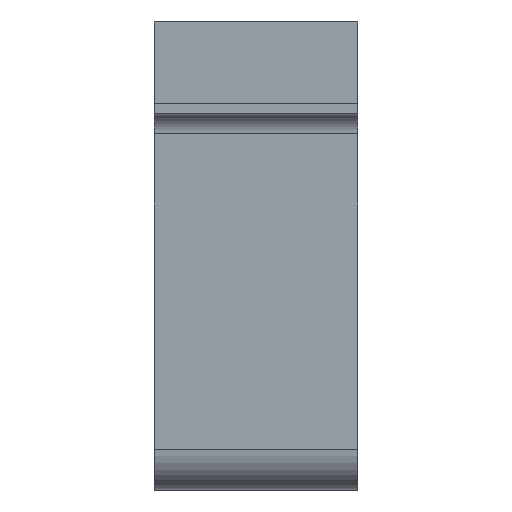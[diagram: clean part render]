
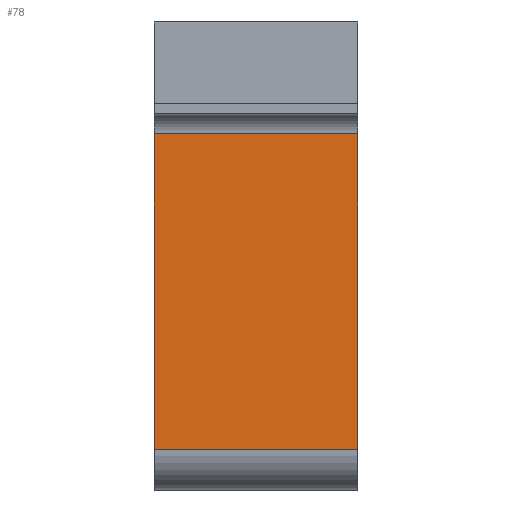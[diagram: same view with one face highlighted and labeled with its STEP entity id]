
A CAD part, left-side view. The second image highlights one B-rep face of the part: STEP entity #78.
In plain terms, the highlighted planar face has unit normal (-1, 0, 0).
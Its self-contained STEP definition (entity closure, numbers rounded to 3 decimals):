
#78=ADVANCED_FACE('',(#126),#108,.F.);
#108=PLANE('',#629);
#126=FACE_OUTER_BOUND('',#146,.T.);
#146=EDGE_LOOP('',(#238,#239,#240,#241));
#238=ORIENTED_EDGE('',*,*,#453,.T.);
#239=ORIENTED_EDGE('',*,*,#454,.T.);
#240=ORIENTED_EDGE('',*,*,#440,.F.);
#241=ORIENTED_EDGE('',*,*,#455,.T.);
#384=VERTEX_POINT('',#868);
#385=VERTEX_POINT('',#870);
#396=VERTEX_POINT('',#896);
#397=VERTEX_POINT('',#897);
#440=EDGE_CURVE('',#384,#385,#515,.T.);
#453=EDGE_CURVE('',#396,#397,#525,.T.);
#454=EDGE_CURVE('',#397,#385,#526,.T.);
#455=EDGE_CURVE('',#384,#396,#527,.T.);
#515=LINE('',#869,#571);
#525=LINE('',#895,#581);
#526=LINE('',#898,#582);
#527=LINE('',#899,#583);
#571=VECTOR('',#694,1.);
#581=VECTOR('',#714,1.);
#582=VECTOR('',#715,1.);
#583=VECTOR('',#716,1.);
#629=AXIS2_PLACEMENT_3D('',#900,#717,#718);
#694=DIRECTION('',(0.,0.,1.));
#714=DIRECTION('',(0.,0.,1.));
#715=DIRECTION('',(0.,1.,0.));
#716=DIRECTION('',(0.,-1.,0.));
#717=DIRECTION('',(1.,0.,0.));
#718=DIRECTION('',(0.,0.,-1.));
#868=CARTESIAN_POINT('',(398.,266.,359.));
#869=CARTESIAN_POINT('',(398.,266.,376.));
#870=CARTESIAN_POINT('',(398.,266.,374.5));
#895=CARTESIAN_POINT('',(398.,256.,376.));
#896=CARTESIAN_POINT('',(398.,256.,359.));
#897=CARTESIAN_POINT('',(398.,256.,374.5));
#898=CARTESIAN_POINT('',(398.,266.,374.5));
#899=CARTESIAN_POINT('',(398.,256.,359.));
#900=CARTESIAN_POINT('',(398.,256.,376.));
